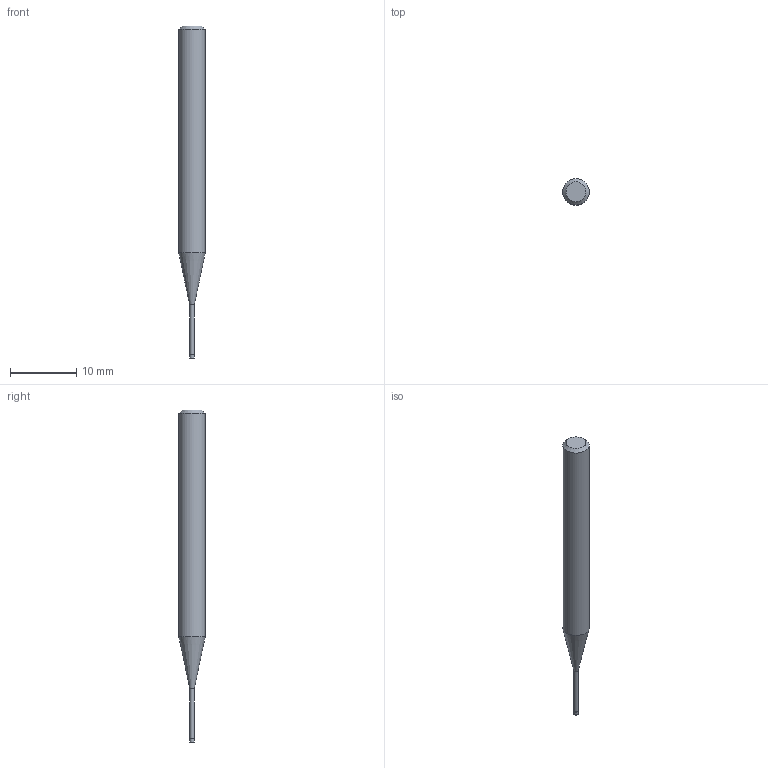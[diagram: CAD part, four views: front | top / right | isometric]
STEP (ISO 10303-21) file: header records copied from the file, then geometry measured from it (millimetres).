
FILE_DESCRIPTION((''),'2;1');
FILE_NAME('C:\Users\nsx150\AppData\Local\Temp\Mastercam 2021\RJ5U8K7RMU\TEMP.step','2021-04-21T16:40:37',(''),(''),'STEP Write','Mastercam 2021 ... CNC Software, Inc.','');
FILE_SCHEMA(('AUTOMOTIVE_DESIGN'));
Length unit declared in the file: millimetre
Products named in the file (1): None
Bounding box: 4 x 4 x 50 mm (x, y, z)
Volume: 469.6 mm3; surface area: 514.2 mm2
Topology: 2 solids, 2 shells, 9 faces, 12 edges, 7 vertices
Faces by surface type: plane 4, cylinder 3, cone 2
Full cylindrical faces by diameter (mm): 0.66 x1, 0.7 x1, 4 x1
Entity records: 211 total; most frequent: DIRECTION 36, CARTESIAN_POINT 25, AXIS2_PLACEMENT_3D 18, ORIENTED_EDGE 14, EDGE_LOOP 14, STYLED_ITEM 12, ADVANCED_FACE 9, FACE_BOUND 8
